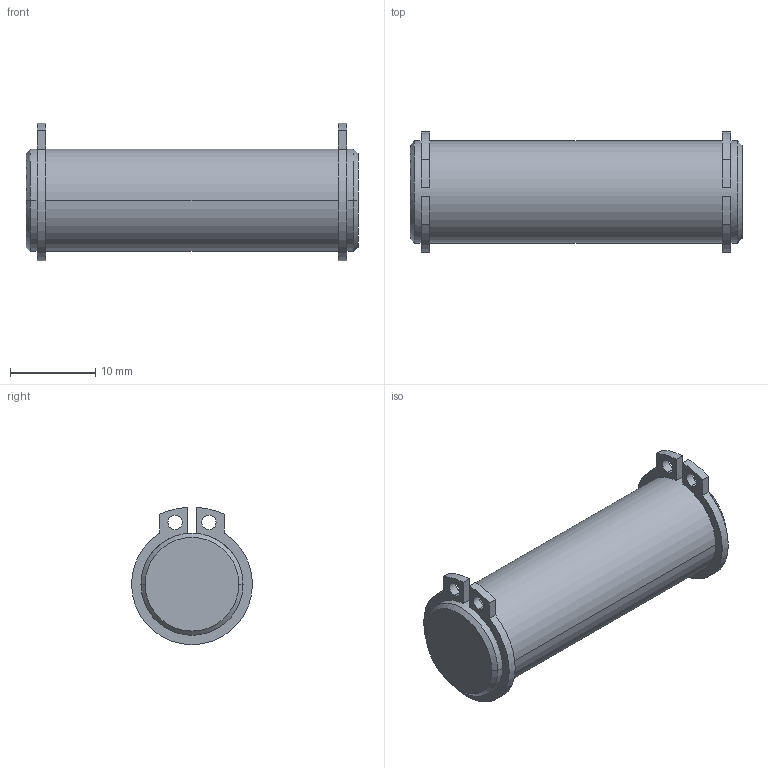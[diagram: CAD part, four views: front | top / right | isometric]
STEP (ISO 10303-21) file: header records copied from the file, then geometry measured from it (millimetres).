
FILE_DESCRIPTION((''),'2;1');
FILE_NAME('3661303000','2015-10-14T',('vol1hc'),(''),'PRO/ENGINEER BY PARAMETRIC TECHNOLOGY CORPORATION, 2012421','PRO/ENGINEER BY PARAMETRIC TECHNOLOGY CORPORATION, 2012421','');
FILE_SCHEMA(('CONFIG_CONTROL_DESIGN','SHAPE_APPEARANCE_LAYERS_GROUPS'));
Length unit declared in the file: millimetre
Products named in the file (1): 3661303000
Bounding box: 39 x 14.2 x 16.14 mm (x, y, z)
Volume: 4507.9 mm3; surface area: 1942.1 mm2
Topology: 1 solids, 1 shells, 36 faces, 98 edges, 64 vertices
Faces by surface type: cylinder 18, plane 14, cone 4
Entity records: 1225 total; most frequent: DIRECTION 218, CARTESIAN_POINT 198, ORIENTED_EDGE 196, EDGE_CURVE 98, AXIS2_PLACEMENT_3D 84, VERTEX_POINT 64, VECTOR 50, LINE 50
